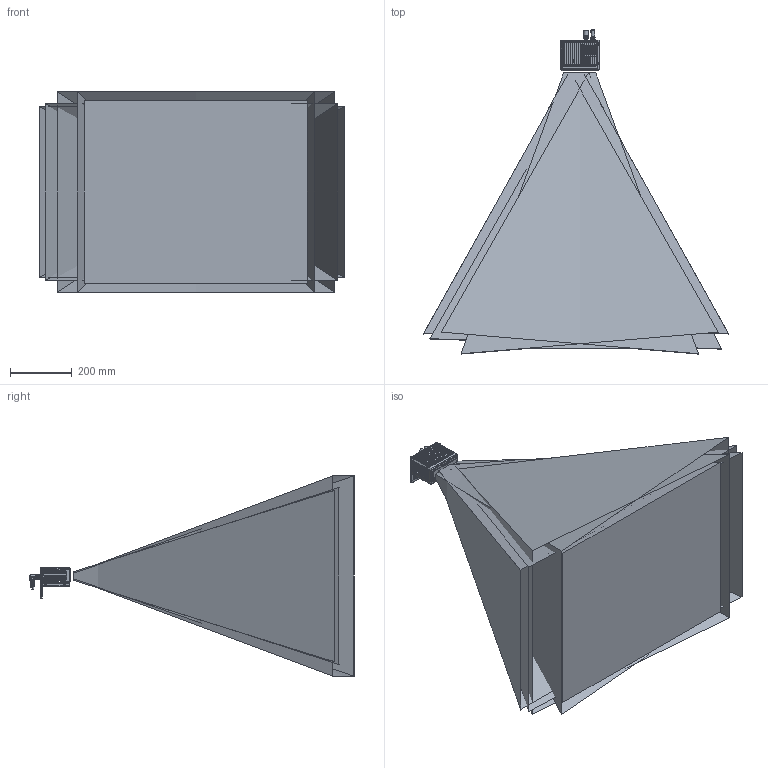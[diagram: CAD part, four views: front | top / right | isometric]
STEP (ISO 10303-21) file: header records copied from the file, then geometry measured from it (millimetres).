
FILE_DESCRIPTION((''),'2;1');
FILE_NAME('00-V069-ZZ-DPS200P-RGBD_ASM_ASM','2026-08-03T21:32:29',('yangtao11'),(''),'CREO PARAMETRIC BY PTC INC, 2020044','CREO PARAMETRIC BY PTC INC, 2020044','');
FILE_SCHEMA(('CONFIG_CONTROL_DESIGN','SHAPE_APPEARANCE_LAYERS_GROUPS'));
Products named in the file (8): 00-V069-ZZ-DPS200P-RG_SW0001_1; 00-V069-ZZ-DPS200P-RG_SW0002_2; 410215147-12PIN-PWR-L_1; 410215160-8PIN-LAN-L_1; DE-14-085638_SW0001_1; SC-PSF0M3X8-BNI--SUS_SW0001_1; 00-V069-ZZ-DPS200P-RGBD_ASM_2_ASM; 00-V069-ZZ-DPS200P-RGBD_ASM_ASM
Assembly tree (10 placements, depth 3):
  00-V069-ZZ-DPS200P-RGBD_ASM_ASM
    00-V069-ZZ-DPS200P-RGBD_ASM_2_ASM
      00-V069-ZZ-DPS200P-RG_SW0001_1
      00-V069-ZZ-DPS200P-RG_SW0002_2
      410215147-12PIN-PWR-L_1
      410215160-8PIN-LAN-L_1
      DE-14-085638_SW0001_1
      SC-PSF0M3X8-BNI--SUS_SW0001_1  x4
Bounding box: 984.62 x 1046.07 x 646.27 mm (x, y, z)
Surface area: 7551454.7 mm2 (no closed solid volume)
Topology: 0 solids, 76 shells, 2667 faces, 7850 edges, 5261 vertices
Faces by surface type: plane 1335, cylinder 680, cone 398, bspline 165, torus 83, extrusion 6
Entity records: 119140 total; most frequent: CARTESIAN_POINT 54004, ORIENTED_EDGE 13323, DIRECTION 12869, EDGE_CURVE 7346, VERTEX_POINT 4958, AXIS2_PLACEMENT_3D 4341, VECTOR 4187, LINE 4181
